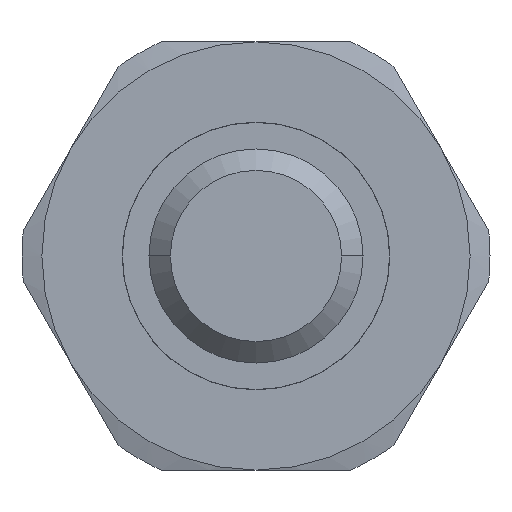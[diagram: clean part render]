
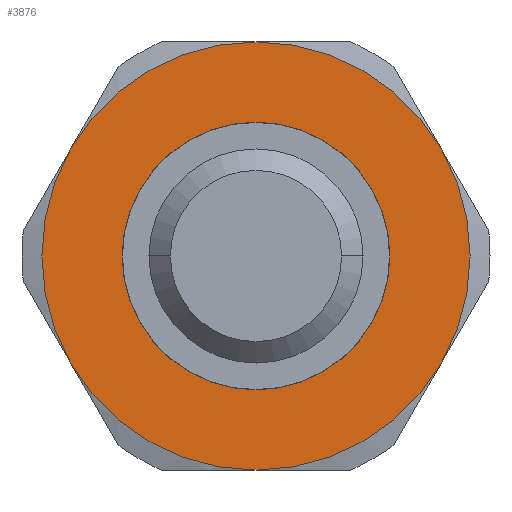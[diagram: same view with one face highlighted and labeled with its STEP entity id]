
A CAD part, left-side view. The second image highlights one B-rep face of the part: STEP entity #3876.
In plain terms, the highlighted planar face has unit normal (-1, 0, 0).
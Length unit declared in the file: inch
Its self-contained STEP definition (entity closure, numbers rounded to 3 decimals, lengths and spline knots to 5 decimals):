
#2062=CARTESIAN_POINT('',(-0.5,-0.3125,0.0));
#2063=VERTEX_POINT('',#2062);
#2072=CARTESIAN_POINT('',(-0.5,0.3125,0.));
#2073=VERTEX_POINT('',#2072);
#2074=CARTESIAN_POINT('',(-0.5,0.0,0.0));
#2075=DIRECTION('',(-1.0,0.0,0.0));
#2076=DIRECTION('',(0.0,-1.0,0.0));
#2077=AXIS2_PLACEMENT_3D('',#2074,#2075,#2076);
#2078=CIRCLE('',#2077,0.3125);
#2079=EDGE_CURVE('',#2063,#2073,#2078,.T.);
#3805=CARTESIAN_POINT('',(-0.5,0.0,0.0));
#3806=DIRECTION('',(-1.0,0.0,0.0));
#3807=DIRECTION('',(0.0,0.0,-1.0));
#3808=AXIS2_PLACEMENT_3D('',#3805,#3806,#3807);
#3809=PLANE('',#3808);
#3810=CARTESIAN_POINT('',(-0.5,0.43301,0.25));
#3811=VERTEX_POINT('',#3810);
#3812=CARTESIAN_POINT('',(-0.5,0.43301,-0.25));
#3813=VERTEX_POINT('',#3812);
#3814=CARTESIAN_POINT('',(-0.5,0.0,0.0));
#3815=DIRECTION('',(-1.0,0.0,0.0));
#3816=DIRECTION('',(0.0,0.0,-1.0));
#3817=AXIS2_PLACEMENT_3D('',#3814,#3815,#3816);
#3818=CIRCLE('',#3817,0.5);
#3819=EDGE_CURVE('',#3811,#3813,#3818,.T.);
#3820=ORIENTED_EDGE('',*,*,#3819,.T.);
#3821=CARTESIAN_POINT('',(-0.5,0.0,-0.5));
#3822=VERTEX_POINT('',#3821);
#3823=CARTESIAN_POINT('',(-0.5,0.0,0.0));
#3824=DIRECTION('',(-1.0,0.0,0.0));
#3825=DIRECTION('',(0.0,0.0,-1.0));
#3826=AXIS2_PLACEMENT_3D('',#3823,#3824,#3825);
#3827=CIRCLE('',#3826,0.5);
#3828=EDGE_CURVE('',#3813,#3822,#3827,.T.);
#3829=ORIENTED_EDGE('',*,*,#3828,.T.);
#3830=CARTESIAN_POINT('',(-0.5,-0.43301,-0.25));
#3831=VERTEX_POINT('',#3830);
#3832=CARTESIAN_POINT('',(-0.5,0.0,0.0));
#3833=DIRECTION('',(-1.0,0.0,0.0));
#3834=DIRECTION('',(0.0,0.0,-1.0));
#3835=AXIS2_PLACEMENT_3D('',#3832,#3833,#3834);
#3836=CIRCLE('',#3835,0.5);
#3837=EDGE_CURVE('',#3822,#3831,#3836,.T.);
#3838=ORIENTED_EDGE('',*,*,#3837,.T.);
#3839=CARTESIAN_POINT('',(-0.5,-0.43301,0.25));
#3840=VERTEX_POINT('',#3839);
#3841=CARTESIAN_POINT('',(-0.5,0.0,0.0));
#3842=DIRECTION('',(-1.0,0.0,0.0));
#3843=DIRECTION('',(0.0,0.0,-1.0));
#3844=AXIS2_PLACEMENT_3D('',#3841,#3842,#3843);
#3845=CIRCLE('',#3844,0.5);
#3846=EDGE_CURVE('',#3831,#3840,#3845,.T.);
#3847=ORIENTED_EDGE('',*,*,#3846,.T.);
#3848=CARTESIAN_POINT('',(-0.5,0.0,0.5));
#3849=VERTEX_POINT('',#3848);
#3850=CARTESIAN_POINT('',(-0.5,0.0,0.0));
#3851=DIRECTION('',(-1.0,0.0,0.0));
#3852=DIRECTION('',(0.0,0.0,-1.0));
#3853=AXIS2_PLACEMENT_3D('',#3850,#3851,#3852);
#3854=CIRCLE('',#3853,0.5);
#3855=EDGE_CURVE('',#3840,#3849,#3854,.T.);
#3856=ORIENTED_EDGE('',*,*,#3855,.T.);
#3857=CARTESIAN_POINT('',(-0.5,0.0,0.0));
#3858=DIRECTION('',(-1.0,0.0,0.0));
#3859=DIRECTION('',(0.0,0.0,-1.0));
#3860=AXIS2_PLACEMENT_3D('',#3857,#3858,#3859);
#3861=CIRCLE('',#3860,0.5);
#3862=EDGE_CURVE('',#3849,#3811,#3861,.T.);
#3863=ORIENTED_EDGE('',*,*,#3862,.T.);
#3864=EDGE_LOOP('',(#3820,#3829,#3838,#3847,#3856,#3863));
#3865=FACE_OUTER_BOUND('',#3864,.T.);
#3866=ORIENTED_EDGE('',*,*,#2079,.F.);
#3867=CARTESIAN_POINT('',(-0.5,0.0,0.0));
#3868=DIRECTION('',(-1.0,0.0,0.0));
#3869=DIRECTION('',(0.0,-1.0,0.0));
#3870=AXIS2_PLACEMENT_3D('',#3867,#3868,#3869);
#3871=CIRCLE('',#3870,0.3125);
#3872=EDGE_CURVE('',#2073,#2063,#3871,.T.);
#3873=ORIENTED_EDGE('',*,*,#3872,.F.);
#3874=EDGE_LOOP('',(#3866,#3873));
#3875=FACE_BOUND('',#3874,.T.);
#3876=ADVANCED_FACE('',(#3865,#3875),#3809,.T.);
